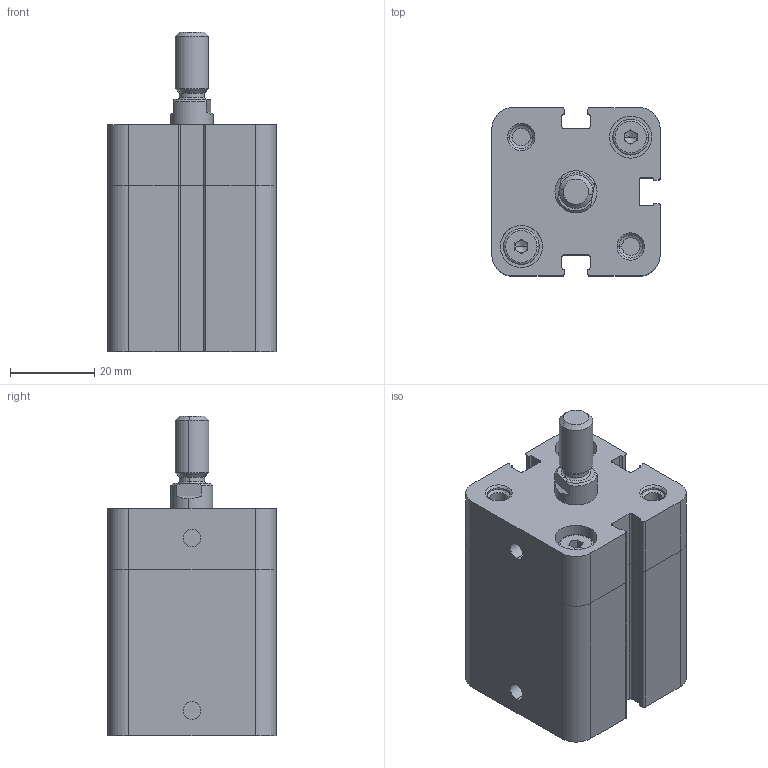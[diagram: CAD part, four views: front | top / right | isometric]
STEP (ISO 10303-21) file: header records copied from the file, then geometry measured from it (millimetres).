
FILE_DESCRIPTION (( 'STEP AP214' ), '1' );
FILE_NAME ('WINC-025-0015-ML (MDMY).STEP', '2017-12-21T10:08:13', ( 'Hidtek' ), ( '' ), 'SwSTEP 2.0', 'SolidWorks 2016', '' );
FILE_SCHEMA (( 'AUTOMOTIVE_DESIGN' ));
Length unit declared in the file: millimetre
Products named in the file (3): WINC-025-0015-ML (MDMY); Group2^WINC-025-0015-ML (MDMY); Group1^WINC-025-0015-ML (MDMY)
Assembly tree (2 placements, depth 2):
  WINC-025-0015-ML (MDMY)
    Group1^WINC-025-0015-ML (MDMY)
    Group2^WINC-025-0015-ML (MDMY)
Bounding box: 40 x 40 x 76 mm (x, y, z)
Volume: 73011 mm3; surface area: 24432.6 mm2
Topology: 5 solids, 5 shells, 359 faces, 903 edges, 576 vertices
Faces by surface type: plane 192, cylinder 102, cone 43, bspline 14, torus 8
Entity records: 12486 total; most frequent: CARTESIAN_POINT 2403, DIRECTION 1829, ORIENTED_EDGE 1798, EDGE_CURVE 899, AXIS2_PLACEMENT_3D 614, VECTOR 601, LINE 601, VERTEX_POINT 576
